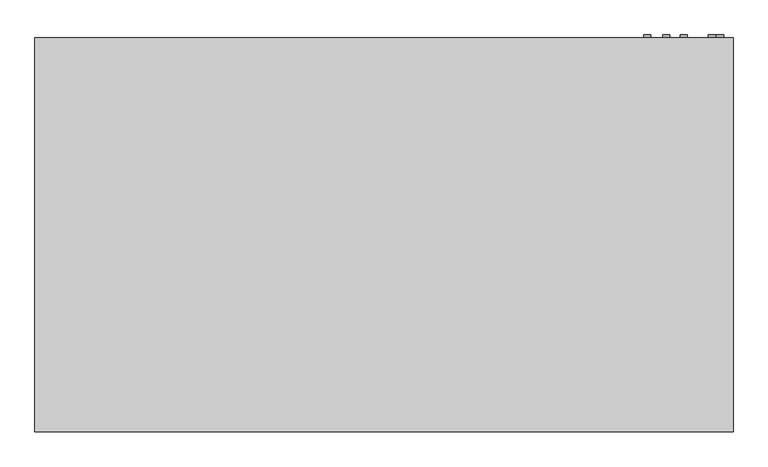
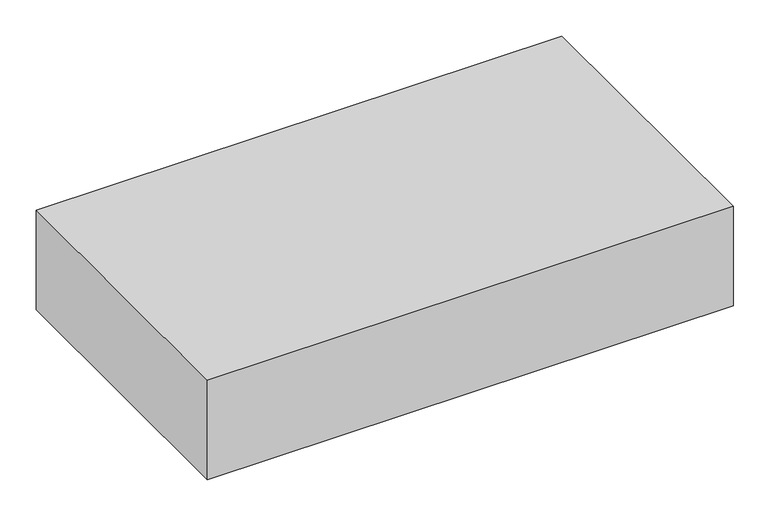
"""IFC4 building model written with IfcOpenShell, lengths in millimetres: proxy geometry, Exposed_Horizontal_Fan_Coil_Unit_-_42CGB_-_CARRIER_-_4-Pipe_BS-BR_RH_2022 : Size 08 - 277v/60Hz/1Ph - 4/1 Coil."""

from ifc_helpers import new_model, si_unit, point, frame, frame_2d, origin, place, context, project, spatial, polyline, circle_curve, trimmed, segment, composite_curve, outline, extrude, source, transform, mapped, element, save


def mechanical_equipment_c74f09e5(model_context):
    return source(origin(), model_context, "Body", "SweptSolid", [
        extrude(outline(polyline([(647.7, -439.7375), (647.7, -611.1875), (-342.9, -611.1875), (-342.9, -439.7375), (647.7, -439.7375)])), frame((0.0, 0.0, -311.15), z_axis=(0.0, 0.0, 1.0), x_axis=(1.0, 0.0, 0.0)), (0.0, 0.0, 1.0), 6.35),
        extrude(outline(composite_curve([segment(trimmed(circle_curve(frame_2d((-85.725, 885.825)), 7.9375), [point((-85.725, 893.7625))], [point((-85.725, 877.8875))], False, "CARTESIAN"), True, "CONTINUOUS"), segment(trimmed(circle_curve(frame_2d((-85.725, 885.825)), 7.9375), [point((-85.725, 877.8875))], [point((-85.725, 893.7625))], False, "CARTESIAN"), True, "CONTINUOUS")], self_intersect=False)), frame((0.0, 192.0875, 0.0), z_axis=(0.0, 1.0, 0.0), x_axis=(0.0, 0.0, 1.0)), (0.0, 0.0, 1.0), 6.35),
        extrude(outline(composite_curve([segment(trimmed(circle_curve(frame_2d((-44.45, 806.45)), 7.9375), [point((-44.45, 814.3875))], [point((-44.45, 798.5125))], False, "CARTESIAN"), True, "CONTINUOUS"), segment(trimmed(circle_curve(frame_2d((-44.45, 806.45)), 7.9375), [point((-44.45, 798.5125))], [point((-44.45, 814.3875))], False, "CARTESIAN"), True, "CONTINUOUS")], self_intersect=False)), frame((0.0, 192.0875, 0.0), z_axis=(0.0, 1.0, 0.0), x_axis=(0.0, 0.0, 1.0)), (0.0, 0.0, 1.0), 6.35),
        extrude(outline(composite_curve([segment(trimmed(circle_curve(frame_2d((-95.25, 768.35)), 7.9375), [point((-95.25, 776.2875))], [point((-95.25, 760.4125))], False, "CARTESIAN"), True, "CONTINUOUS"), segment(trimmed(circle_curve(frame_2d((-95.25, 768.35)), 7.9375), [point((-95.25, 760.4125))], [point((-95.25, 776.2875))], False, "CARTESIAN"), True, "CONTINUOUS")], self_intersect=False)), frame((0.0, 192.0875, 0.0), z_axis=(0.0, 1.0, 0.0), x_axis=(0.0, 0.0, 1.0)), (0.0, 0.0, 1.0), 6.35),
        extrude(outline(composite_curve([segment(trimmed(circle_curve(frame_2d((-60.325, 727.075)), 7.9375), [point((-60.325, 735.0125))], [point((-60.325, 719.1375))], False, "CARTESIAN"), True, "CONTINUOUS"), segment(trimmed(circle_curve(frame_2d((-60.325, 727.075)), 7.9375), [point((-60.325, 719.1375))], [point((-60.325, 735.0125))], False, "CARTESIAN"), True, "CONTINUOUS")], self_intersect=False)), frame((0.0, 192.0875, 0.0), z_axis=(0.0, 1.0, 0.0), x_axis=(0.0, 0.0, 1.0)), (0.0, 0.0, 1.0), 6.35),
        extrude(outline(composite_curve([segment(trimmed(circle_curve(frame_2d((-260.35, 869.95)), 9.525), [point((-260.35, 879.475))], [point((-260.35, 860.425))], False, "CARTESIAN"), True, "CONTINUOUS"), segment(trimmed(circle_curve(frame_2d((-260.35, 869.95)), 9.525), [point((-260.35, 860.425))], [point((-260.35, 879.475))], False, "CARTESIAN"), True, "CONTINUOUS")], self_intersect=False)), frame((0.0, 192.0875, 0.0), z_axis=(0.0, 1.0, 0.0), x_axis=(0.0, 0.0, 1.0)), (0.0, 0.0, 1.0), 6.35),
        extrude(outline(polyline([(-609.6, 192.0875), (914.4, 192.0875), (914.4, -668.3375), (-609.6, -668.3375), (-609.6, 192.0875)])), frame((0.0, 0.0, -304.8), z_axis=(0.0, 0.0, 1.0), x_axis=(1.0, 0.0, 0.0)), (0.0, 0.0, 1.0), 304.8),
        extrude(outline(polyline([(673.1, 115.8875), (673.1, -138.1125), (-368.3, -138.1125), (-368.3, 115.8875), (673.1, 115.8875)])), frame((0.0, 0.0, -311.15), z_axis=(0.0, 0.0, 1.0), x_axis=(1.0, 0.0, 0.0)), (0.0, 0.0, 1.0), 6.35),
    ])


if __name__ == "__main__":
    model = new_model("IFC4")
    model_context = context("Model", 3, world=origin())
    ifc_project = project(units=[si_unit("LENGTHUNIT", "METRE", prefix="MILLI")], contexts=[model_context])
    site = spatial("IfcSite", under=ifc_project)
    building = spatial("IfcBuilding", under=site)
    placement = place(None, origin())
    mechanical_equipment_shape = mechanical_equipment_c74f09e5(model_context)
    element("IfcBuildingElementProxy", 1, Name="Exposed_Horizontal_Fan_Coil_Unit_-_42CGB_-_CARRIER_-_4-Pipe_BS-BR_RH_2022 : Size 08 - 277v/60Hz/1Ph - 4/1 Coil", ObjectType="Exposed_Horizontal_Fan_Coil_Unit_-_42CGB_-_CARRIER_-_4-Pipe_BS-BR_RH_2022 : Size 08 - 277v/60Hz/1Ph - 4/1 Coil", at=placement, inside=building, context=model_context, shape_type="MappedRepresentation", body=[
        mapped(mechanical_equipment_shape, transform((0.0, 0.0, 0.0), x_axis=(1.0, 0.0, 0.0), y_axis=(0.0, 1.0, 0.0), z_axis=(0.0, 0.0, 1.0))),
    ])
    save(model, "model.ifc")
